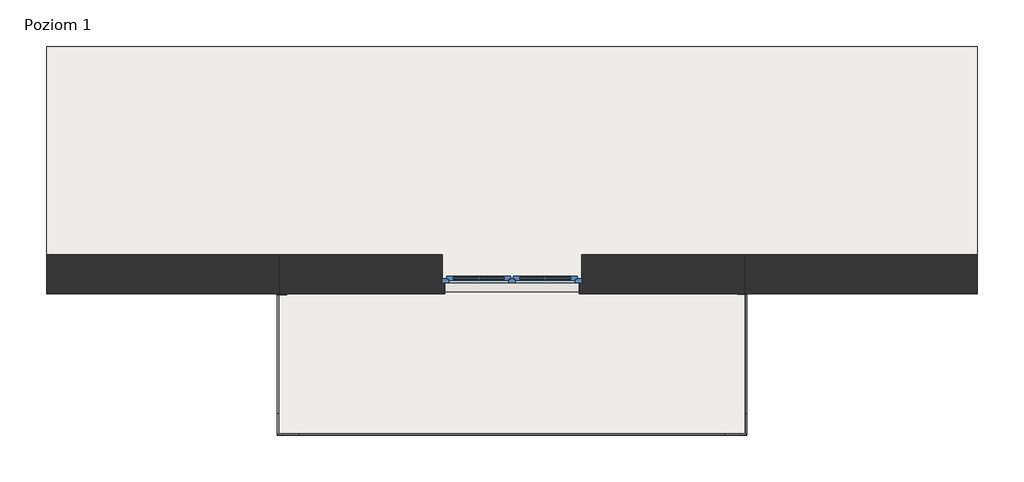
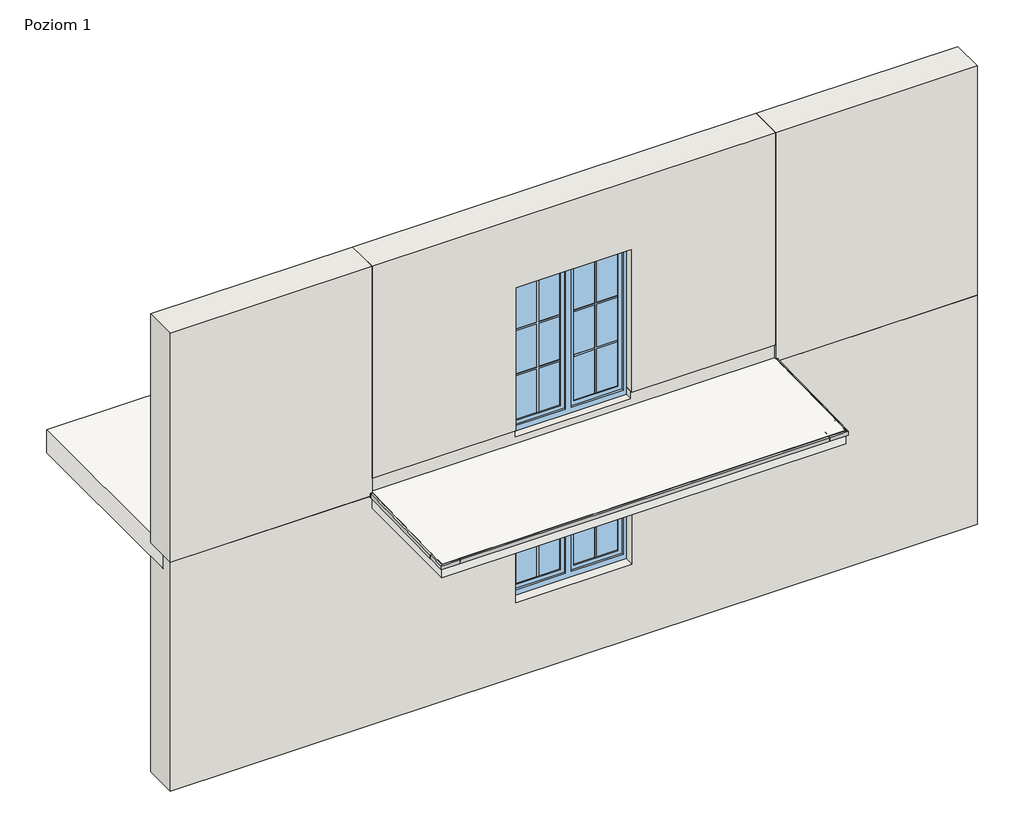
# One storey, part 1 of 4: 5 proxies, 5 walls, 2 slabs, 2 windows.
"""IFC4 building model written with IfcOpenShell, lengths in millimetres."""

from ifc_helpers import new_model, si_unit, origin, place, context, project, spatial, faceted_brep, transform, mapped, element, save
from components import generic_models_3133368d, generic_models_36d00aa6, k301_e0689195, k301_5b34aea1, k301_a9cddecb, window_150x150_51b7f79a, window_150x200_12b14935

model = new_model("IFC4")

# Units and contexts
model_context = context("Model", 3, world=origin())
ifc_project = project(units=[si_unit("LENGTHUNIT", "METRE", prefix="MILLI")], contexts=[model_context])

# Site, building, storey
site = spatial("IfcSite", under=ifc_project)
building = spatial("IfcBuilding", under=site)
storey = spatial("IfcBuildingStorey", under=building, Name="Poziom 1", Elevation=0.0)

# Proxies
placement = place(None, origin())
generic_models_shape = generic_models_3133368d(model_context)
element("IfcBuildingElementProxy", 1, Name="Odbojniki - OPK301 : Odbojniki - OPK301", ObjectType="Odbojniki - OPK301 : Odbojniki - OPK301", at=placement, inside=storey, context=model_context, shape_type="MappedRepresentation", body=[
    mapped(generic_models_shape, transform((-114209.4276493, 46221.6670986, -138.1354372), x_axis=(0.0, -0.9998020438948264, -0.019896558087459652), y_axis=(1.0, 0.0, 0.0), z_axis=(0.0, -0.01989655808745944, 0.9998020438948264))),
])
generic_models_2_shape = generic_models_36d00aa6(model_context)
element("IfcBuildingElementProxy", 2, Name="Odbojniki - OPK301 : Odbojniki - OPK301", ObjectType="Odbojniki - OPK301 : Odbojniki - OPK301", at=placement, inside=storey, context=model_context, shape_type="MappedRepresentation", body=[
    mapped(generic_models_2_shape, transform((-109225.3654711, 46226.7675737, -138.0339352), x_axis=(0.0, -0.9998020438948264, -0.01989655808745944), y_axis=(1.0, 0.0, 0.0), z_axis=(0.0, -0.01989655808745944, 0.9998020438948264))),
])
k301_shape = k301_e0689195(model_context)
element("IfcBuildingElementProxy", 3, Name="K301 Profil okapowy prosty : K301", ObjectType="K301 Profil okapowy prosty : K301", at=placement, inside=storey, context=model_context, shape_type="MappedRepresentation", body=[
    mapped(k301_shape, transform((-114216.6154711, 44731.2029699, -114.5998812), x_axis=(1.0, 0.0, 0.0), y_axis=(0.0, 0.9998020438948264, 0.01989655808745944), z_axis=(0.0, -0.01989655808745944, 0.9998020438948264))),
])
k301_2_shape = k301_5b34aea1(model_context)
element("IfcBuildingElementProxy", 4, Name="K301 Profil okapowy prosty : K301", ObjectType="K301 Profil okapowy prosty : K301", at=placement, inside=storey, context=model_context, shape_type="MappedRepresentation", body=[
    mapped(k301_2_shape, transform((-114218.1776493, 46220.6088802, -84.9599626), x_axis=(0.0, -0.9998020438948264, -0.019896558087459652), y_axis=(1.0, 0.0, 0.0), z_axis=(0.0, -0.01989655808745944, 0.9998020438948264))),
])
k301_3_shape = k301_a9cddecb(model_context)
element("IfcBuildingElementProxy", 5, Name="K301 Profil okapowy prosty : K301", ObjectType="K301 Profil okapowy prosty : K301", at=placement, inside=storey, context=model_context, shape_type="MappedRepresentation", body=[
    mapped(k301_3_shape, transform((-109216.6154711, 46225.7093553, -84.8584606), x_axis=(0.0, -0.9998020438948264, -0.01989655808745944), y_axis=(1.0, 0.0, 0.0), z_axis=(0.0, -0.01989655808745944, 0.9998020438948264))),
])

# Slabs
element("IfcSlab", 6, ObjectType="Balkon - posadzka ceramiczna", at=placement, inside=storey, context=model_context, shape_type="Brep", body=[
    faceted_brep([(-114218.1776493, 44731.191032, -290.0), (-114218.1776493, 46231.191032, -290.0), (-114218.1776493, 46339.191032, -290.0), (-109218.1776493, 46339.191032, -290.0), (-109218.1776493, 46231.191032, -290.0), (-109218.1776493, 44731.191032, -290.0), (-114218.1776493, 44731.191032, -114.0), (-114218.1776493, 46253.191032, -83.7114428), (-114218.1776493, 46339.191032, -82.0), (-114218.1776493, 46339.191032, -125.0), (-109218.1776493, 46339.191032, -82.0), (-109218.1776493, 46339.191032, -125.0), (-109218.1776493, 44731.191032, -114.0), (-109218.1776493, 46253.191032, -83.7114428)], [[[0, 1, 2, 3, 4, 5]], [[2, 1, 0, 6, 7, 8, 9]], [[3, 2, 9, 8, 10, 11]], [[0, 5, 12, 6]], [[5, 4, 3, 11, 10, 13, 12]], [[12, 13, 10, 8, 7, 6]]]),
])
element("IfcSlab", 7, ObjectType="Strop", at=placement, inside=storey, context=model_context, shape_type="Brep", body=[
    faceted_brep([(-106718.1776493, 46386.191032, -300.0), (-116718.1776493, 46386.191032, -300.0), (-116718.1776493, 46651.191032, -300.0), (-116718.1776493, 48886.191032, -300.0), (-106718.1776493, 48886.191032, -300.0), (-106718.1776493, 46651.191032, -300.0), (-106718.1776493, 46386.191032, 0.0), (-106718.1776493, 48886.191032, 0.0), (-116718.1776493, 48886.191032, 0.0), (-116718.1776493, 46386.191032, 0.0), (-114218.1776493, 46386.191032, 0.0), (-112468.1776493, 46386.191032, 0.0), (-110968.1776493, 46386.191032, 0.0), (-109218.1776493, 46386.191032, 0.0), (-106718.1776493, 46386.191032, -125.0), (-116718.1776493, 46386.191032, -125.0)], [[[0, 1, 2, 3, 4, 5]], [[6, 7, 8, 9, 10, 11, 12, 13]], [[1, 0, 14, 6, 13, 12, 11, 10, 9, 15]], [[3, 2, 1, 15, 9, 8]], [[4, 3, 8, 7]], [[0, 5, 4, 7, 6, 14]]]),
])

# Walls
element("IfcWall", 8, ObjectType="Porotherm P+W 25 + o15 + t", at=placement, inside=storey, context=model_context, shape_type="Brep", body=[
    faceted_brep([(-116718.1776493, 46231.191032, -3125.0), (-106718.1776493, 46231.191032, -3125.0), (-106718.1776493, 46231.191032, -125.0), (-109218.1776493, 46231.191032, -125.0), (-109218.1776493, 46231.191032, -290.0), (-114218.1776493, 46231.191032, -290.0), (-114218.1776493, 46231.191032, -125.0), (-116718.1776493, 46231.191032, -125.0), (-110998.1776493, 46231.191032, -680.0), (-110998.1776493, 46231.191032, -2150.0), (-112438.1776493, 46231.191032, -2150.0), (-112438.1776493, 46231.191032, -680.0), (-106718.1776493, 46651.191032, -3125.0), (-116718.1776493, 46651.191032, -3125.0), (-116718.1776493, 46651.191032, -300.0), (-106718.1776493, 46651.191032, -300.0), (-110968.1776493, 46651.191032, -2150.0), (-110968.1776493, 46651.191032, -650.0), (-112468.1776493, 46651.191032, -650.0), (-112468.1776493, 46651.191032, -2150.0), (-106718.1776493, 46386.191032, -300.0), (-106718.1776493, 46386.191032, -125.0), (-109218.1776493, 46386.191032, -125.0), (-114218.1776493, 46386.191032, -125.0), (-116718.1776493, 46386.191032, -125.0), (-114218.1776493, 46339.191032, -125.0), (-109218.1776493, 46339.191032, -125.0), (-116718.1776493, 46386.191032, -300.0), (-110968.1776493, 46351.191032, -650.0), (-110968.1776493, 46351.191032, -2150.0), (-110998.1776493, 46351.191032, -680.0), (-110998.1776493, 46351.191032, -2150.0), (-109218.1776493, 46339.191032, -290.0), (-114218.1776493, 46339.191032, -290.0), (-112468.1776493, 46351.191032, -650.0), (-112468.1776493, 46351.191032, -2150.0), (-112438.1776493, 46351.191032, -2150.0), (-112438.1776493, 46351.191032, -680.0)], [[[0, 1, 2, 3, 4, 5, 6, 7], [8, 9, 10, 11]], [[12, 13, 14, 15], [16, 17, 18, 19]], [[1, 0, 13, 12]], [[2, 1, 12, 15, 20, 21]], [[2, 21, 22, 23, 24, 7, 6, 25, 26, 3]], [[0, 7, 24, 27, 14, 13]], [[28, 17, 16, 29]], [[8, 30, 31, 9]], [[27, 20, 15, 14]], [[20, 27, 24, 23, 22, 21]], [[32, 33, 5, 4]], [[5, 33, 25, 6]], [[33, 32, 26, 25]], [[32, 4, 3, 26]], [[17, 28, 34, 18]], [[29, 16, 19, 35, 36, 10, 9, 31]], [[34, 28, 29, 31, 30, 37, 36, 35]], [[34, 35, 19, 18]], [[30, 8, 11, 37]], [[10, 36, 37, 11]]]),
])
element("IfcWall", 9, ObjectType="Porotherm P+W 25 + o15 + t", at=placement, inside=storey, context=model_context, shape_type="Brep", body=[
    faceted_brep([(-116718.1776493, 46231.191032, -125.0), (-114218.1776493, 46231.191032, -125.0), (-114218.1776493, 46231.191032, 100.0), (-114218.1776493, 46231.191032, 2875.0), (-116718.1776493, 46231.191032, 2875.0), (-116718.1776493, 46651.191032, -125.0), (-116718.1776493, 46651.191032, 2875.0), (-114218.1776493, 46651.191032, 2875.0), (-114218.1776493, 46651.191032, 100.0), (-114218.1776493, 46651.191032, 0.0), (-114218.1776493, 46651.191032, -125.0), (-116718.1776493, 46386.191032, -125.0), (-114218.1776493, 46386.191032, -125.0), (-114218.1776493, 46339.191032, -125.0)], [[[0, 1, 2, 3, 4]], [[5, 6, 7, 8, 9, 10]], [[1, 0, 11, 5, 10, 12, 13]], [[4, 3, 7, 6]], [[0, 4, 6, 5, 11]], [[1, 13, 12, 10, 9, 8, 7, 3, 2]]]),
])
element("IfcWall", 10, ObjectType="Porotherm P+W 25 + o15 + t", at=placement, inside=storey, context=model_context, shape_type="Brep", body=[
    faceted_brep([(-109218.1776493, 46231.191032, 2875.0), (-109218.1776493, 46231.191032, 100.0), (-109218.1776493, 46231.191032, -125.0), (-106718.1776493, 46231.191032, -125.0), (-106718.1776493, 46231.191032, 2875.0), (-109218.1776493, 46651.191032, -125.0), (-109218.1776493, 46651.191032, 0.0), (-109218.1776493, 46651.191032, 100.0), (-109218.1776493, 46651.191032, 2875.0), (-106718.1776493, 46651.191032, 2875.0), (-106718.1776493, 46651.191032, -125.0), (-109218.1776493, 46339.191032, -125.0), (-109218.1776493, 46386.191032, -125.0), (-106718.1776493, 46386.191032, -125.0)], [[[0, 1, 2, 3, 4]], [[5, 6, 7, 8, 9, 10]], [[3, 2, 11, 12, 5, 10, 13]], [[4, 3, 13, 10, 9]], [[0, 4, 9, 8]], [[0, 8, 7, 6, 5, 12, 11, 2, 1]]]),
])
element("IfcWall", 11, ObjectType="Porotherm P+W 25 + o12 + pł ceramiczne", at=placement, inside=storey, context=model_context, shape_type="Brep", body=[
    faceted_brep([(-109218.1776493, 46253.191032, 100.0), (-110998.1776493, 46253.191032, 100.0), (-110998.1776493, 46253.191032, 0.0), (-112438.1776493, 46253.191032, 0.0), (-112438.1776493, 46253.191032, 100.0), (-114218.1776493, 46253.191032, 100.0), (-114218.1776493, 46253.191032, -83.7114428), (-109218.1776493, 46253.191032, -83.7114428), (-114218.1776493, 46651.191032, 0.0), (-114218.1776493, 46651.191032, 100.0), (-112468.1776493, 46651.191032, 100.0), (-112468.1776493, 46651.191032, 0.0), (-109218.1776493, 46651.191032, 100.0), (-109218.1776493, 46651.191032, 0.0), (-110968.1776493, 46651.191032, 0.0), (-110968.1776493, 46651.191032, 100.0), (-114218.1776493, 46386.191032, -125.0), (-109218.1776493, 46386.191032, -125.0), (-109218.1776493, 46339.191032, -125.0), (-114218.1776493, 46339.191032, -125.0), (-109218.1776493, 46339.191032, -82.0), (-109218.1776493, 46386.191032, 0.0), (-110968.1776493, 46351.191032, 100.0), (-110998.1776493, 46351.191032, 100.0), (-112438.1776493, 46351.191032, 100.0), (-112468.1776493, 46351.191032, 100.0), (-114218.1776493, 46386.191032, 0.0), (-114218.1776493, 46339.191032, -82.0), (-112468.1776493, 46386.191032, 0.0), (-110968.1776493, 46386.191032, 0.0), (-112468.1776493, 46351.191032, 0.0), (-112438.1776493, 46351.191032, 0.0), (-110998.1776493, 46351.191032, 0.0), (-110968.1776493, 46351.191032, 0.0)], [[[0, 1, 2, 3, 4, 5, 6, 7]], [[8, 9, 10, 11]], [[12, 13, 14, 15]], [[16, 17, 18, 19]], [[12, 0, 7, 20, 18, 17, 21, 13]], [[0, 12, 15, 22, 23, 1]], [[9, 5, 4, 24, 25, 10]], [[5, 9, 8, 26, 16, 19, 27, 6]], [[8, 11, 28, 26]], [[13, 21, 29, 14]], [[17, 16, 26, 28, 29, 21]], [[20, 27, 19, 18]], [[27, 20, 7, 6]], [[30, 31, 3, 2, 32, 33, 29, 28]], [[31, 30, 25, 24]], [[33, 32, 23, 22]], [[33, 22, 15, 14, 29]], [[25, 30, 28, 11, 10]], [[32, 2, 1, 23]], [[3, 31, 24, 4]]]),
])
element("IfcWall", 12, ObjectType="Porotherm P+W 25 + o15 + t", at=placement, inside=storey, context=model_context, shape_type="Brep", body=[
    faceted_brep([(-109218.1776493, 46231.191032, 100.0), (-109218.1776493, 46231.191032, 2875.0), (-114218.1776493, 46231.191032, 2875.0), (-114218.1776493, 46231.191032, 100.0), (-112438.1776493, 46231.191032, 100.0), (-112438.1776493, 46231.191032, 1970.0), (-110998.1776493, 46231.191032, 1970.0), (-110998.1776493, 46231.191032, 100.0), (-109218.1776493, 46651.191032, 2875.0), (-109218.1776493, 46651.191032, 100.0), (-110968.1776493, 46651.191032, 100.0), (-110968.1776493, 46651.191032, 2000.0), (-112468.1776493, 46651.191032, 2000.0), (-112468.1776493, 46651.191032, 100.0), (-114218.1776493, 46651.191032, 100.0), (-114218.1776493, 46651.191032, 2875.0), (-114218.1776493, 46253.191032, 100.0), (-112468.1776493, 46351.191032, 100.0), (-112438.1776493, 46351.191032, 100.0), (-112438.1776493, 46253.191032, 100.0), (-109218.1776493, 46253.191032, 100.0), (-110998.1776493, 46253.191032, 100.0), (-110998.1776493, 46351.191032, 100.0), (-110968.1776493, 46351.191032, 100.0), (-110968.1776493, 46351.191032, 2000.0), (-110998.1776493, 46351.191032, 1970.0), (-112468.1776493, 46351.191032, 2000.0), (-112438.1776493, 46351.191032, 1970.0)], [[[0, 1, 2, 3, 4, 5, 6, 7]], [[8, 9, 10, 11, 12, 13, 14, 15]], [[3, 16, 14, 13, 17, 18, 19, 4]], [[9, 20, 0, 7, 21, 22, 23, 10]], [[1, 0, 20, 9, 8]], [[2, 1, 8, 15]], [[3, 2, 15, 14, 16]], [[24, 11, 10, 23]], [[6, 25, 22, 21, 7]], [[26, 12, 11, 24]], [[26, 24, 23, 22, 25, 27, 18, 17]], [[12, 26, 17, 13]], [[27, 25, 6, 5]], [[27, 5, 4, 19, 18]]]),
])

# Windows
window_150x150_shape = window_150x150_51b7f79a(model_context)
element("IfcWindow", 13, ObjectType="OKNO_2X_W_SZ : 150x150", at=placement, inside=storey, context=model_context, shape_type="MappedRepresentation", body=[
    mapped(window_150x150_shape, transform((-111718.1776493, 46441.191032, -3000.0), x_axis=(-1.0, 0.0, 0.0), y_axis=(0.0, -1.0, 0.0), z_axis=(0.0, 0.0, 1.0))),
])
window_150x200_shape = window_150x200_12b14935(model_context)
element("IfcWindow", 14, ObjectType="OKNO_2X_W_SZ : 150x200", at=placement, inside=storey, context=model_context, shape_type="MappedRepresentation", body=[
    mapped(window_150x200_shape, transform((-111718.1776493, 46441.191032, -850.0), x_axis=(-1.0, 0.0, 0.0), y_axis=(0.0, -1.0, 0.0), z_axis=(0.0, 0.0, 1.0))),
])

save(model, "model.ifc")
